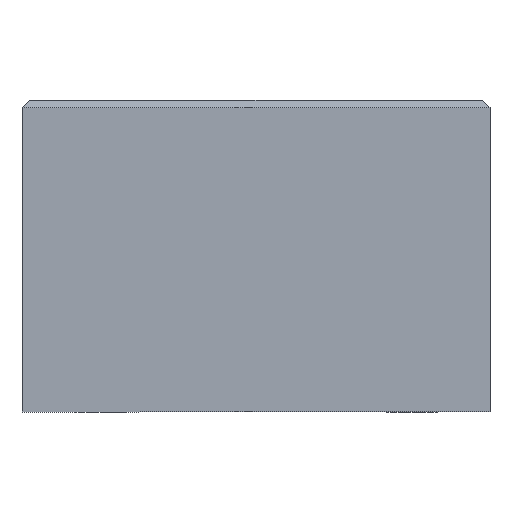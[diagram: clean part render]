
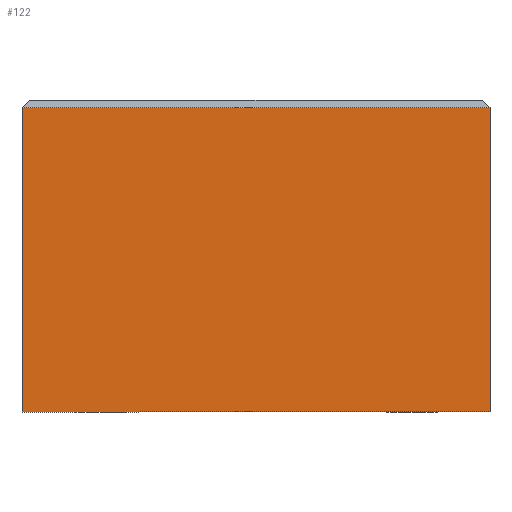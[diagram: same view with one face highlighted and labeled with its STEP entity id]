
A CAD part, left-side view. The second image highlights one B-rep face of the part: STEP entity #122.
In plain terms, the highlighted planar face has unit normal (-1, 0, 0).
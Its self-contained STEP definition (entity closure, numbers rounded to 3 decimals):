
#70=CARTESIAN_POINT('Vertex',(0.,30.,0.)) ;
#73=CARTESIAN_POINT('Line Origine',(0.,30.,19.5)) ;
#77=CARTESIAN_POINT('Vertex',(0.,30.,39.)) ;
#92=CARTESIAN_POINT('Axis2P3D Location',(0.,0.,0.)) ;
#97=CARTESIAN_POINT('Line Origine',(0.,0.,39.)) ;
#101=CARTESIAN_POINT('Vertex',(0.,-30.,39.)) ;
#104=CARTESIAN_POINT('Line Origine',(0.,0.,0.)) ;
#108=CARTESIAN_POINT('Vertex',(0.,-30.,0.)) ;
#111=CARTESIAN_POINT('Line Origine',(0.,-30.,19.5)) ;
#74=DIRECTION('Vector Direction',(0.,0.,1.)) ;
#93=DIRECTION('Axis2P3D Direction',(1.,0.,0.)) ;
#94=DIRECTION('Axis2P3D XDirection',(0.,1.,0.)) ;
#98=DIRECTION('Vector Direction',(0.,-1.,0.)) ;
#105=DIRECTION('Vector Direction',(0.,-1.,0.)) ;
#112=DIRECTION('Vector Direction',(0.,0.,-1.)) ;
#95=AXIS2_PLACEMENT_3D('Plane Axis2P3D',#92,#93,#94) ;
#117=ORIENTED_EDGE('',*,*,#103,.T.) ;
#118=ORIENTED_EDGE('',*,*,#79,.F.) ;
#119=ORIENTED_EDGE('',*,*,#110,.F.) ;
#120=ORIENTED_EDGE('',*,*,#115,.F.) ;
#75=VECTOR('Line Direction',#74,1.) ;
#99=VECTOR('Line Direction',#98,1.) ;
#106=VECTOR('Line Direction',#105,1.) ;
#113=VECTOR('Line Direction',#112,1.) ;
#122=ADVANCED_FACE('\X2\96F64EF651E04F554F53\X0\',(#121),#96,.F.) ;
#79=EDGE_CURVE('',#71,#78,#76,.T.) ;
#103=EDGE_CURVE('',#102,#78,#100,.F.) ;
#110=EDGE_CURVE('',#109,#71,#107,.F.) ;
#115=EDGE_CURVE('',#102,#109,#114,.T.) ;
#116=EDGE_LOOP('',(#117,#118,#119,#120)) ;
#121=FACE_OUTER_BOUND('',#116,.T.) ;
#76=LINE('Line',#73,#75) ;
#100=LINE('Line',#97,#99) ;
#107=LINE('Line',#104,#106) ;
#114=LINE('Line',#111,#113) ;
#96=PLANE('Plane',#95) ;
#71=VERTEX_POINT('',#70) ;
#78=VERTEX_POINT('',#77) ;
#102=VERTEX_POINT('',#101) ;
#109=VERTEX_POINT('',#108) ;
